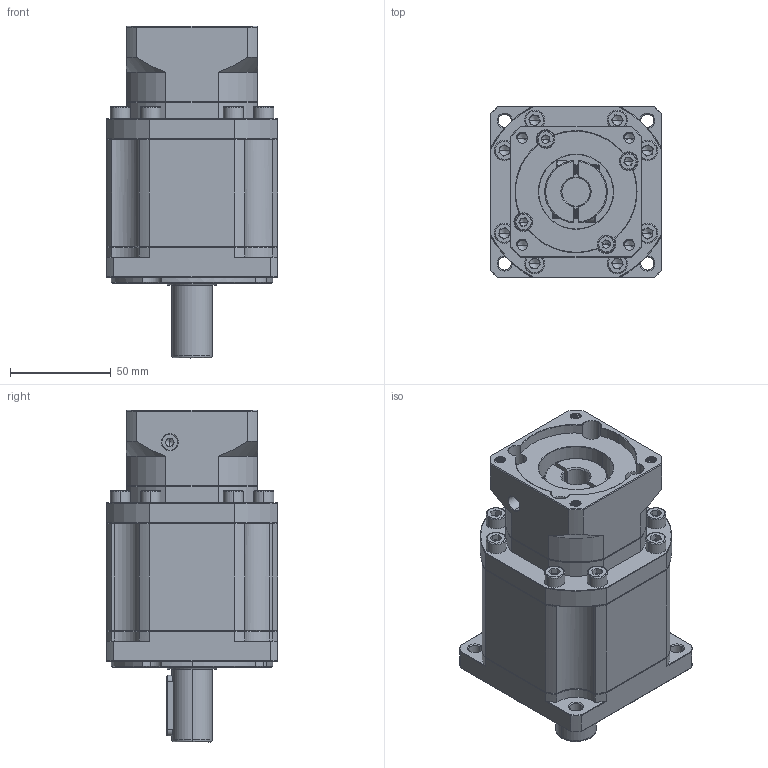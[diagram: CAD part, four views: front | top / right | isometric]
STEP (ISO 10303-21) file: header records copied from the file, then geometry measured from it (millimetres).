
FILE_DESCRIPTION (( 'STEP AP214' ), '1' );
FILE_NAME ('ZB90-D20-L3-14-60-75-M6.STEP', '2022-05-02T15:28:42', ( '' ), ( 'Microsoft' ), 'SwSTEP 2.0', 'SolidWorks 2016', '' );
FILE_SCHEMA (( 'AUTOMOTIVE_DESIGN' ));
Length unit declared in the file: millimetre
Products named in the file (1): ZB90-D20-L3-14-60-75-M6
Bounding box: 85 x 85 x 164.5 mm (x, y, z)
Volume: 659404.3 mm3; surface area: 82576.2 mm2
Topology: 6 solids, 6 shells, 2087 faces, 5475 edges, 3475 vertices
Faces by surface type: plane 1005, cylinder 405, bspline 328, cone 327, torus 22
Entity records: 110003 total; most frequent: CARTESIAN_POINT 38251, ORIENTED_EDGE 10858, DIRECTION 9012, EDGE_CURVE 5429, VERTEX_POINT 3475, VECTOR 3338, LINE 3338, AXIS2_PLACEMENT_3D 2837
